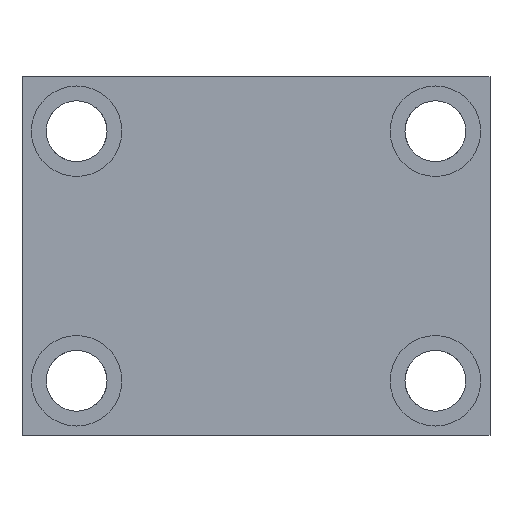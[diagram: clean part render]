
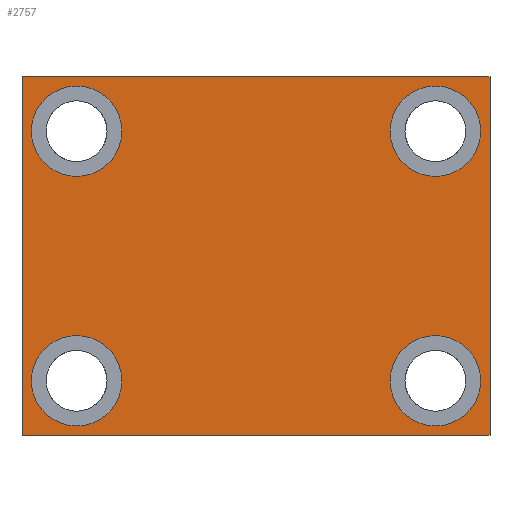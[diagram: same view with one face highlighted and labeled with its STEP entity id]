
A CAD part, front view. The second image highlights one B-rep face of the part: STEP entity #2757.
In plain terms, the highlighted planar face has unit normal (0, -1, 0).
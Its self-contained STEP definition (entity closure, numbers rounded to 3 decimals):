
#24 = VECTOR ( 'NONE', #3199, 1000. ) ;
#44 = AXIS2_PLACEMENT_3D ( 'NONE', #1719, #1678, #1648 ) ;
#45 = EDGE_LOOP ( 'NONE', ( #1572, #428 ) ) ;
#47 = ORIENTED_EDGE ( 'NONE', *, *, #815, .F. ) ;
#56 = ORIENTED_EDGE ( 'NONE', *, *, #610, .F. ) ;
#58 = VERTEX_POINT ( 'NONE', #625 ) ;
#77 = DIRECTION ( 'NONE',  ( 0., 0., -1. ) ) ;
#112 = CARTESIAN_POINT ( 'NONE',  ( -115., 0., 109. ) ) ;
#141 = LINE ( 'NONE', #1510, #24 ) ;
#163 = FACE_BOUND ( 'NONE', #3286, .T. ) ;
#165 = FACE_OUTER_BOUND ( 'NONE', #3259, .T. ) ;
#225 = FACE_BOUND ( 'NONE', #2772, .T. ) ;
#237 = EDGE_CURVE ( 'NONE', #3013, #395, #1349, .T. ) ;
#252 = AXIS2_PLACEMENT_3D ( 'NONE', #1989, #2008, #2074 ) ;
#272 = FACE_BOUND ( 'NONE', #45, .T. ) ;
#273 = FACE_BOUND ( 'NONE', #386, .T. ) ;
#284 = VERTEX_POINT ( 'NONE', #2482 ) ;
#311 = AXIS2_PLACEMENT_3D ( 'NONE', #2718, #2707, #2702 ) ;
#330 = CIRCLE ( 'NONE', #44, 29. ) ;
#380 = ORIENTED_EDGE ( 'NONE', *, *, #883, .F. ) ;
#386 = EDGE_LOOP ( 'NONE', ( #56, #2293 ) ) ;
#395 = VERTEX_POINT ( 'NONE', #112 ) ;
#416 = CARTESIAN_POINT ( 'NONE',  ( -150., 0., 115. ) ) ;
#428 = ORIENTED_EDGE ( 'NONE', *, *, #1435, .F. ) ;
#451 = CARTESIAN_POINT ( 'NONE',  ( -150., 0., -115. ) ) ;
#481 = DIRECTION ( 'NONE',  ( 0., 0., 1. ) ) ;
#497 = CARTESIAN_POINT ( 'NONE',  ( -150., 0., -115. ) ) ;
#501 = ORIENTED_EDGE ( 'NONE', *, *, #855, .F. ) ;
#610 = EDGE_CURVE ( 'NONE', #1524, #2009, #1610, .T. ) ;
#625 = CARTESIAN_POINT ( 'NONE',  ( 150., 0., -115. ) ) ;
#638 = CARTESIAN_POINT ( 'NONE',  ( 115., 0., -109. ) ) ;
#665 = EDGE_CURVE ( 'NONE', #3513, #2833, #1557, .T. ) ;
#715 = CARTESIAN_POINT ( 'NONE',  ( 115., 0., 80. ) ) ;
#719 = ORIENTED_EDGE ( 'NONE', *, *, #824, .F. ) ;
#754 = VERTEX_POINT ( 'NONE', #2825 ) ;
#771 = CARTESIAN_POINT ( 'NONE',  ( -115., 0., 51. ) ) ;
#815 = EDGE_CURVE ( 'NONE', #58, #3513, #1732, .T. ) ;
#824 = EDGE_CURVE ( 'NONE', #3167, #2155, #1720, .T. ) ;
#855 = EDGE_CURVE ( 'NONE', #284, #2675, #1691, .T. ) ;
#883 = EDGE_CURVE ( 'NONE', #2833, #754, #1696, .T. ) ;
#1002 = DIRECTION ( 'NONE',  ( 0., -1., 0. ) ) ;
#1009 = ORIENTED_EDGE ( 'NONE', *, *, #665, .F. ) ;
#1045 = DIRECTION ( 'NONE',  ( 0., 0., -1. ) ) ;
#1061 = CARTESIAN_POINT ( 'NONE',  ( -150., 0., -115. ) ) ;
#1070 = DIRECTION ( 'NONE',  ( 0., 0., -1. ) ) ;
#1081 = DIRECTION ( 'NONE',  ( 0., -1., 0. ) ) ;
#1094 = CARTESIAN_POINT ( 'NONE',  ( -115., 0., -80. ) ) ;
#1174 = PLANE ( 'NONE',  #3396 ) ;
#1199 = CARTESIAN_POINT ( 'NONE',  ( 0., 0., 0. ) ) ;
#1219 = CARTESIAN_POINT ( 'NONE',  ( -115., 0., 80. ) ) ;
#1266 = AXIS2_PLACEMENT_3D ( 'NONE', #1219, #1332, #2241 ) ;
#1324 = DIRECTION ( 'NONE',  ( -1., 0., 0. ) ) ;
#1332 = DIRECTION ( 'NONE',  ( 0., -1., 0. ) ) ;
#1349 = CIRCLE ( 'NONE', #252, 29. ) ;
#1407 = EDGE_CURVE ( 'NONE', #754, #58, #141, .T. ) ;
#1435 = EDGE_CURVE ( 'NONE', #395, #3013, #1937, .T. ) ;
#1445 = CIRCLE ( 'NONE', #3330, 29. ) ;
#1483 = CARTESIAN_POINT ( 'NONE',  ( -115., 0., -109. ) ) ;
#1510 = CARTESIAN_POINT ( 'NONE',  ( 150., 0., -115. ) ) ;
#1524 = VERTEX_POINT ( 'NONE', #1483 ) ;
#1557 = LINE ( 'NONE', #451, #1558 ) ;
#1558 = VECTOR ( 'NONE', #481, 1000. ) ;
#1572 = ORIENTED_EDGE ( 'NONE', *, *, #237, .F. ) ;
#1610 = CIRCLE ( 'NONE', #2684, 29. ) ;
#1648 = DIRECTION ( 'NONE',  ( 0., 0., -1. ) ) ;
#1678 = DIRECTION ( 'NONE',  ( 0., -1., 0. ) ) ;
#1691 = CIRCLE ( 'NONE', #3504, 29. ) ;
#1696 = LINE ( 'NONE', #416, #1700 ) ;
#1700 = VECTOR ( 'NONE', #3291, 1000. ) ;
#1719 = CARTESIAN_POINT ( 'NONE',  ( 115., 0., 80. ) ) ;
#1720 = CIRCLE ( 'NONE', #3540, 29. ) ;
#1725 = VECTOR ( 'NONE', #1324, 1000. ) ;
#1732 = LINE ( 'NONE', #1061, #1725 ) ;
#1824 = DIRECTION ( 'NONE',  ( 0., 0., 1. ) ) ;
#1829 = DIRECTION ( 'NONE',  ( 0., 1., 0. ) ) ;
#1882 = EDGE_CURVE ( 'NONE', #2009, #1524, #2861, .T. ) ;
#1907 = ORIENTED_EDGE ( 'NONE', *, *, #2142, .F. ) ;
#1937 = CIRCLE ( 'NONE', #1266, 29. ) ;
#1989 = CARTESIAN_POINT ( 'NONE',  ( -115., 0., 80. ) ) ;
#2008 = DIRECTION ( 'NONE',  ( 0., -1., 0. ) ) ;
#2009 = VERTEX_POINT ( 'NONE', #2278 ) ;
#2074 = DIRECTION ( 'NONE',  ( 0., 0., -1. ) ) ;
#2080 = CARTESIAN_POINT ( 'NONE',  ( 115., 0., -51. ) ) ;
#2133 = DIRECTION ( 'NONE',  ( 0., 0., -1. ) ) ;
#2138 = DIRECTION ( 'NONE',  ( 0., -1., 0. ) ) ;
#2142 = EDGE_CURVE ( 'NONE', #2155, #3167, #1445, .T. ) ;
#2153 = CARTESIAN_POINT ( 'NONE',  ( 115., 0., 109. ) ) ;
#2155 = VERTEX_POINT ( 'NONE', #2080 ) ;
#2177 = CARTESIAN_POINT ( 'NONE',  ( 115., 0., -80. ) ) ;
#2241 = DIRECTION ( 'NONE',  ( 0., 0., -1. ) ) ;
#2278 = CARTESIAN_POINT ( 'NONE',  ( -115., 0., -51. ) ) ;
#2293 = ORIENTED_EDGE ( 'NONE', *, *, #1882, .F. ) ;
#2482 = CARTESIAN_POINT ( 'NONE',  ( 115., 0., 51. ) ) ;
#2513 = ORIENTED_EDGE ( 'NONE', *, *, #2656, .F. ) ;
#2656 = EDGE_CURVE ( 'NONE', #2675, #284, #330, .T. ) ;
#2675 = VERTEX_POINT ( 'NONE', #2153 ) ;
#2684 = AXIS2_PLACEMENT_3D ( 'NONE', #1094, #1081, #1070 ) ;
#2702 = DIRECTION ( 'NONE',  ( 0., 0., -1. ) ) ;
#2707 = DIRECTION ( 'NONE',  ( 0., -1., 0. ) ) ;
#2718 = CARTESIAN_POINT ( 'NONE',  ( -115., 0., -80. ) ) ;
#2757 = ADVANCED_FACE ( 'NONE', ( #273, #225, #163, #272, #165 ), #1174, .F. ) ;
#2772 = EDGE_LOOP ( 'NONE', ( #719, #1907 ) ) ;
#2825 = CARTESIAN_POINT ( 'NONE',  ( 150., 0., 115. ) ) ;
#2833 = VERTEX_POINT ( 'NONE', #3408 ) ;
#2861 = CIRCLE ( 'NONE', #311, 29. ) ;
#3013 = VERTEX_POINT ( 'NONE', #771 ) ;
#3167 = VERTEX_POINT ( 'NONE', #638 ) ;
#3199 = DIRECTION ( 'NONE',  ( 0., 0., -1. ) ) ;
#3259 = EDGE_LOOP ( 'NONE', ( #3289, #380, #1009, #47 ) ) ;
#3286 = EDGE_LOOP ( 'NONE', ( #501, #2513 ) ) ;
#3289 = ORIENTED_EDGE ( 'NONE', *, *, #1407, .F. ) ;
#3291 = DIRECTION ( 'NONE',  ( 1., 0., 0. ) ) ;
#3330 = AXIS2_PLACEMENT_3D ( 'NONE', #2177, #2138, #2133 ) ;
#3346 = CARTESIAN_POINT ( 'NONE',  ( 115., 0., -80. ) ) ;
#3355 = DIRECTION ( 'NONE',  ( 0., -1., 0. ) ) ;
#3396 = AXIS2_PLACEMENT_3D ( 'NONE', #1199, #1829, #1824 ) ;
#3408 = CARTESIAN_POINT ( 'NONE',  ( -150., 0., 115. ) ) ;
#3504 = AXIS2_PLACEMENT_3D ( 'NONE', #715, #1002, #1045 ) ;
#3513 = VERTEX_POINT ( 'NONE', #497 ) ;
#3540 = AXIS2_PLACEMENT_3D ( 'NONE', #3346, #3355, #77 ) ;
